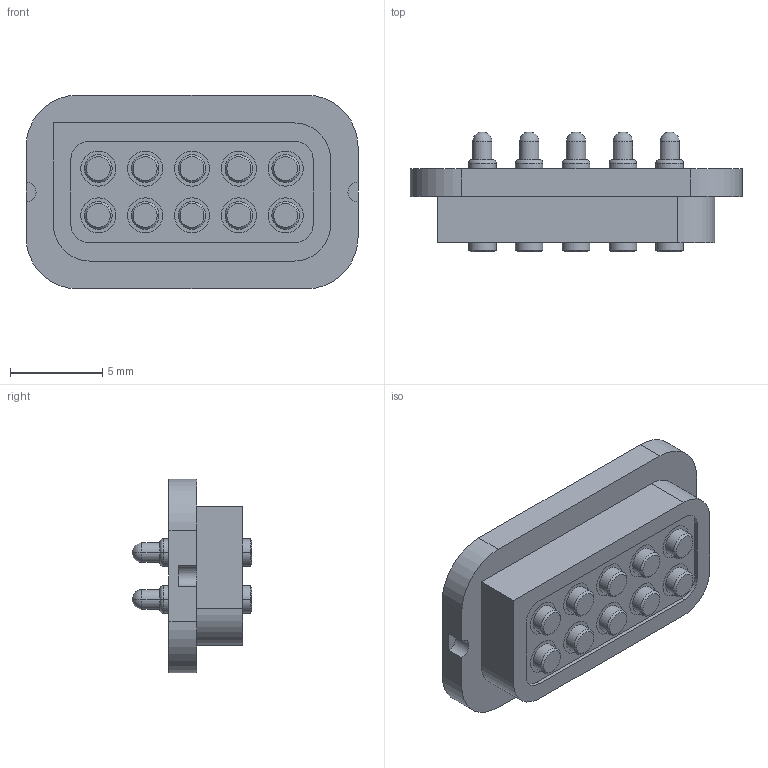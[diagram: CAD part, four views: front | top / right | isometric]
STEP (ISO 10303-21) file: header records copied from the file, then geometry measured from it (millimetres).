
FILE_DESCRIPTION((''),'2;1');
FILE_NAME('MALE_ASM','2020-01-10T',('lenovo'),(''),'PRO/ENGINEER BY PARAMETRIC TECHNOLOGY CORPORATION, 2008380','PRO/ENGINEER BY PARAMETRIC TECHNOLOGY CORPORATION, 2008380','');
FILE_SCHEMA(('CONFIG_CONTROL_DESIGN'));
Length unit declared in the file: millimetre
Products named in the file (4): HOUSING; POGOPIN; WATERPROOFGLUE; MALE_ASM
Assembly tree (12 placements, depth 2):
  MALE_ASM
    HOUSING
    POGOPIN  x10
    WATERPROOFGLUE
Bounding box: 18 x 6.5 x 10.5 mm (x, y, z)
Volume: 622.5 mm3; surface area: 1286.8 mm2
Topology: 12 solids, 12 shells, 361 faces, 769 edges, 484 vertices
Faces by surface type: cylinder 197, plane 104, torus 20, sphere 20, cone 20
Entity records: 2991 total; most frequent: DIRECTION 559, CARTESIAN_POINT 485, ORIENTED_EDGE 454, EDGE_CURVE 227, AXIS2_PLACEMENT_3D 225, VERTEX_POINT 151, EDGE_LOOP 120, CIRCLE 118
